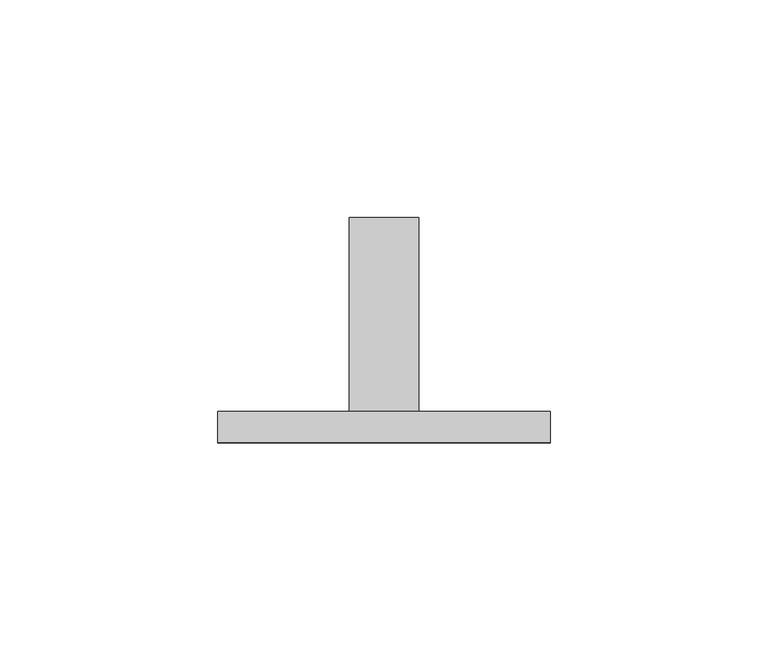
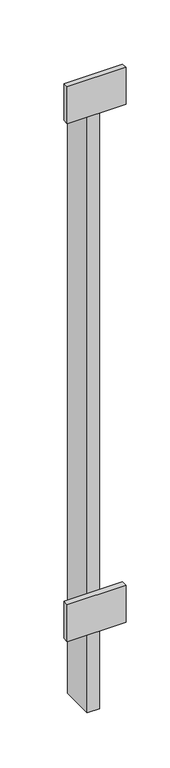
"""IFC4 building model written with IfcOpenShell, lengths in millimetres: proxy geometry, Baluster-End-Post-VIVA-STRUC-Top Mount : WELDED STEEL CHANNEL_TOP MOUNT STRUC_STRAIGHT."""

from ifc_helpers import new_model, si_unit, frame, origin, place, context, project, spatial, polyline, outline, extrude, source, transform, mapped, element, save


def building_element_proxy_dd0e699c(model_context):
    return source(origin(), model_context, "Body", "SweptSolid", [
        extrude(outline(polyline([(-58.9780808, -123.8478567), (-135.1795192, -123.8478567), (-135.1795192, -116.7358567), (-58.9780808, -116.7358567), (-58.9780808, -123.8478567)])), frame((0.0, 0.0, 824.3906928), z_axis=(0.0, 0.0, 1.0), x_axis=(1.0, 0.0, 0.0)), (0.0, 0.0, 1.0), 50.8),
        extrude(outline(polyline([(-58.9780808, -123.8478567), (-135.1795192, -123.8478567), (-135.1795192, -116.7358567), (-58.9780808, -116.7358567), (-58.9780808, -123.8478567)])), frame((0.0, 0.0, 113.1906928), z_axis=(0.0, 0.0, 1.0), x_axis=(1.0, 0.0, 0.0)), (0.0, 0.0, 1.0), 50.8),
        extrude(outline(polyline([(-89.1413, -72.2858567), (-89.1413, -116.7358567), (-105.0163, -116.7358567), (-105.0163, -72.2858567), (-89.1413, -72.2858567)])), frame((0.0, 0.0, 0.5143555), z_axis=(0.0, 0.0, 1.0), x_axis=(1.0, 0.0, 0.0)), (0.0, 0.0, 1.0), 831.2594445),
    ])


if __name__ == "__main__":
    model = new_model("IFC4")
    model_context = context("Model", 3, world=origin())
    ifc_project = project(units=[si_unit("LENGTHUNIT", "METRE", prefix="MILLI")], contexts=[model_context])
    site = spatial("IfcSite", under=ifc_project)
    building = spatial("IfcBuilding", under=site)
    placement = place(None, origin())
    building_element_proxy_shape = building_element_proxy_dd0e699c(model_context)
    element("IfcBuildingElementProxy", 1, Name="Baluster-End-Post-VIVA-STRUC-Top Mount : WELDED STEEL CHANNEL_TOP MOUNT STRUC_STRAIGHT", ObjectType="Baluster-End-Post-VIVA-STRUC-Top Mount : WELDED STEEL CHANNEL_TOP MOUNT STRUC_STRAIGHT", at=placement, inside=building, context=model_context, shape_type="MappedRepresentation", body=[
        mapped(building_element_proxy_shape, transform((0.0, 0.0, 0.0), x_axis=(1.0, 0.0, 0.0), y_axis=(0.0, 1.0, 0.0), z_axis=(0.0, 0.0, 1.0))),
    ])
    save(model, "model.ifc")
